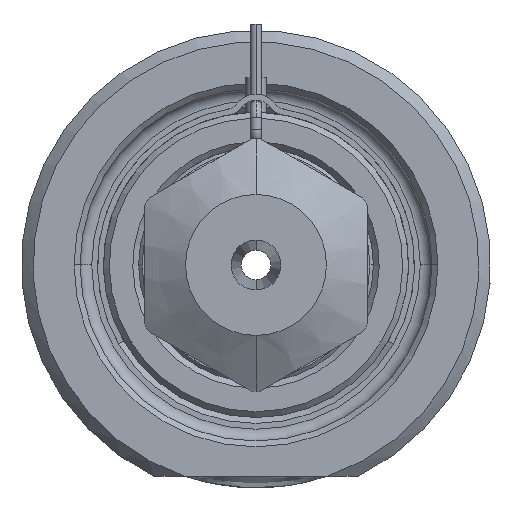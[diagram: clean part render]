
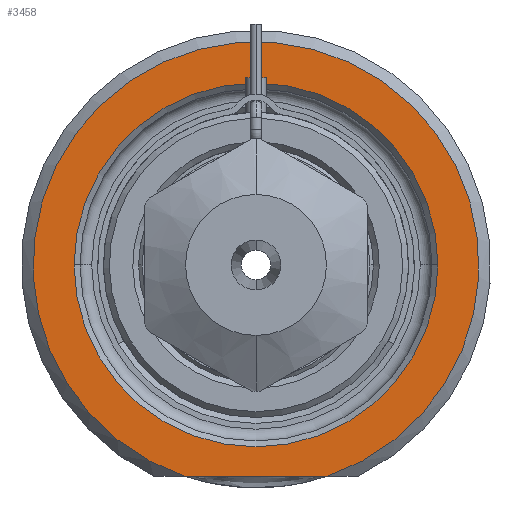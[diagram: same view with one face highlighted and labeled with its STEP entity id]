
A CAD part, front view. The second image highlights one B-rep face of the part: STEP entity #3458.
In plain terms, the highlighted planar face has unit normal (0, -1, 0).
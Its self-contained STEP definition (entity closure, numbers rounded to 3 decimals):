
#1=DIRECTION('',(1.,0.,0.));
#2=VECTOR('',#1,12.166);
#3=CARTESIAN_POINT('',(-6.083,0.,-18.));
#4=LINE('',#3,#2);
#5=CARTESIAN_POINT('',(0.,0.,0.));
#6=DIRECTION('',(0.,1.,0.));
#7=DIRECTION('',(-1.,0.,0.));
#8=AXIS2_PLACEMENT_3D('',#5,#6,#7);
#10=CARTESIAN_POINT('',(0.,0.,0.));
#11=DIRECTION('',(0.,1.,0.));
#12=DIRECTION('',(1.,0.,0.));
#13=AXIS2_PLACEMENT_3D('',#10,#11,#12);
#264=CARTESIAN_POINT('',(0.,0.,0.));
#265=DIRECTION('',(0.,-1.,0.));
#266=DIRECTION('',(0.32,0.,-0.947));
#267=AXIS2_PLACEMENT_3D('',#264,#265,#266);
#2901=CARTESIAN_POINT('',(-15.5,0.,0.));
#2902=CARTESIAN_POINT('',(15.5,0.,0.));
#2903=VERTEX_POINT('',#2901);
#2904=VERTEX_POINT('',#2902);
#2959=CARTESIAN_POINT('',(-6.083,0.,-18.));
#2960=CARTESIAN_POINT('',(6.083,0.,-18.));
#2961=VERTEX_POINT('',#2959);
#2962=VERTEX_POINT('',#2960);
#3441=CARTESIAN_POINT('',(0.,0.,0.));
#3442=DIRECTION('',(0.,-1.,0.));
#3443=DIRECTION('',(1.,0.,0.));
#3444=AXIS2_PLACEMENT_3D('',#3441,#3442,#3443);
#3445=PLANE('',#3444);
#3447=ORIENTED_EDGE('',*,*,#3446,.F.);
#3449=ORIENTED_EDGE('',*,*,#3448,.F.);
#3450=EDGE_LOOP('',(#3447,#3449));
#3451=FACE_OUTER_BOUND('',#3450,.F.);
#3453=ORIENTED_EDGE('',*,*,#3452,.F.);
#3455=ORIENTED_EDGE('',*,*,#3454,.F.);
#3456=EDGE_LOOP('',(#3453,#3455));
#3457=FACE_BOUND('',#3456,.F.);
#3458=ADVANCED_FACE('',(#3451,#3457),#3445,.T.);
#9=CIRCLE('',#8,15.5);
#14=CIRCLE('',#13,15.5);
#268=CIRCLE('',#267,19.);
#3446=EDGE_CURVE('',#2961,#2962,#4,.T.);
#3448=EDGE_CURVE('',#2962,#2961,#268,.T.);
#3452=EDGE_CURVE('',#2903,#2904,#9,.T.);
#3454=EDGE_CURVE('',#2904,#2903,#14,.T.);
